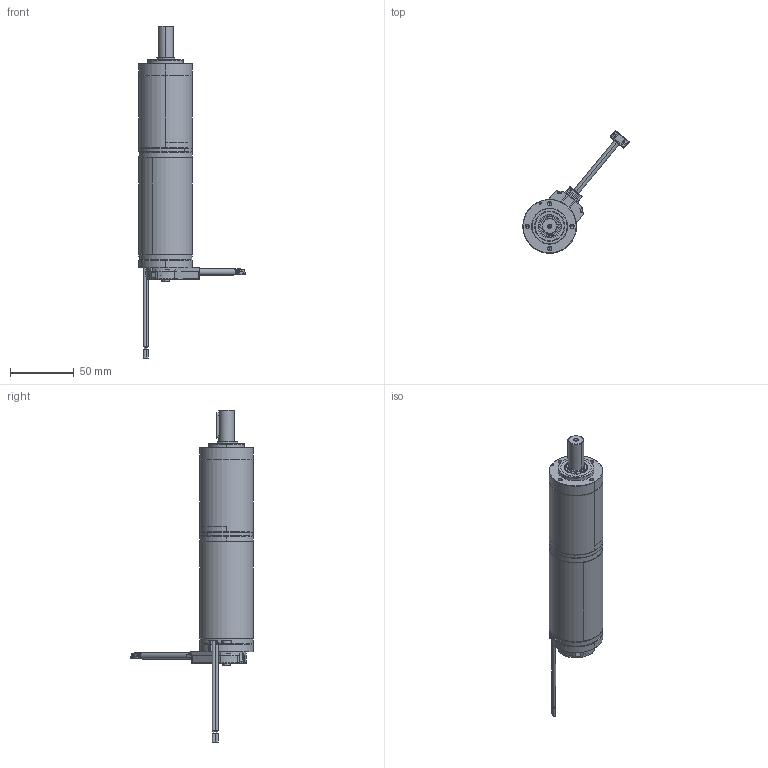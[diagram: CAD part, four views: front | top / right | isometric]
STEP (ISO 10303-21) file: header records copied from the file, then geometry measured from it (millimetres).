
FILE_DESCRIPTION (( 'STEP AP214' ), '1' );
FILE_NAME ('BRx42-40-PGx42 (3 Stage) - Incr Encoder.STEP', '2025-05-13T06:09:22', ( '' ), ( '' ), 'SwSTEP 2.0', 'SolidWorks 2023', '' );
FILE_SCHEMA (( 'AUTOMOTIVE_DESIGN' ));
Length unit declared in the file: millimetre
Products named in the file (1): BRx42-40-PGx42 (3 Stage) - Incr Encoder
Bounding box: 83.29 x 96.21 x 260.35 mm (x, y, z)
Volume: 148604.6 mm3; surface area: 75606.4 mm2
Topology: 35 solids, 35 shells, 3676 faces, 9423 edges, 5990 vertices
Faces by surface type: plane 1912, cylinder 724, cone 525, torus 245, bspline 234, sphere 36
Entity records: 165040 total; most frequent: CARTESIAN_POINT 35984, ORIENTED_EDGE 18782, DIRECTION 17744, EDGE_CURVE 9391, AXIS2_PLACEMENT_3D 6279, VERTEX_POINT 5990, LINE 5186, VECTOR 5186
